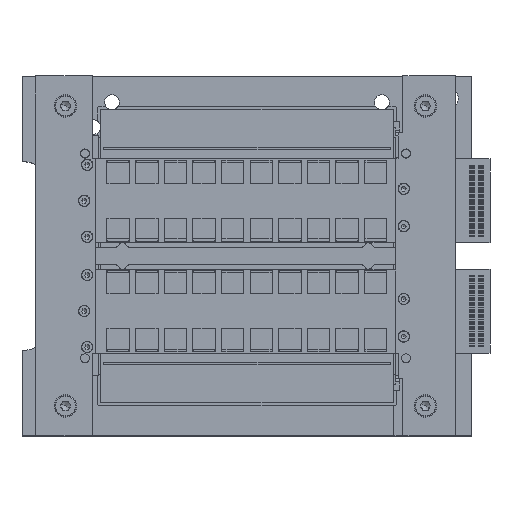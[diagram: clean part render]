
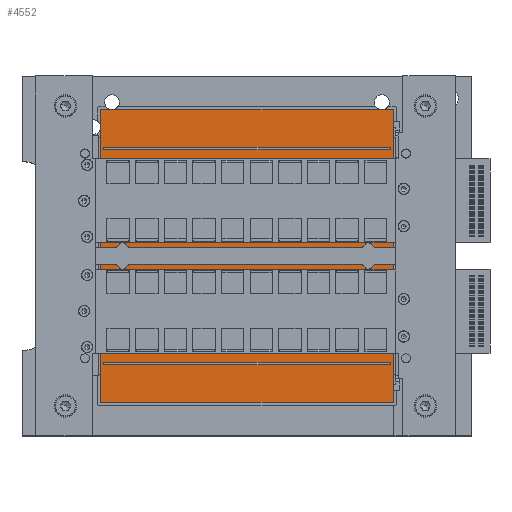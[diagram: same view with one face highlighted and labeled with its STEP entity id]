
A CAD part, top view. The second image highlights one B-rep face of the part: STEP entity #4552.
In plain terms, the highlighted planar face has unit normal (0, 0, 1).
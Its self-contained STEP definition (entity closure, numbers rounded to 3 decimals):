
#3999=CARTESIAN_POINT('Vertex',(-47.8,-35.48,0.32)) ;
#4004=CARTESIAN_POINT('Line Origine',(-47.8,-35.88,0.32)) ;
#4008=CARTESIAN_POINT('Vertex',(-47.8,-36.28,0.32)) ;
#4039=CARTESIAN_POINT('Vertex',(47.8,-35.48,0.32)) ;
#4044=CARTESIAN_POINT('Line Origine',(0.,-35.48,0.32)) ;
#4066=CARTESIAN_POINT('Line Origine',(0.,-36.28,0.32)) ;
#4070=CARTESIAN_POINT('Vertex',(47.8,-36.28,0.32)) ;
#4114=CARTESIAN_POINT('Line Origine',(47.8,-35.88,0.32)) ;
#4130=CARTESIAN_POINT('Vertex',(-47.8,-0.48,0.32)) ;
#4135=CARTESIAN_POINT('Line Origine',(-47.8,-0.88,0.32)) ;
#4139=CARTESIAN_POINT('Vertex',(-47.8,-1.28,0.32)) ;
#4170=CARTESIAN_POINT('Vertex',(47.8,-0.48,0.32)) ;
#4175=CARTESIAN_POINT('Line Origine',(0.,-0.48,0.32)) ;
#4197=CARTESIAN_POINT('Line Origine',(0.,-1.28,0.32)) ;
#4201=CARTESIAN_POINT('Vertex',(47.8,-1.28,0.32)) ;
#4235=CARTESIAN_POINT('Line Origine',(47.8,-0.88,0.32)) ;
#4251=CARTESIAN_POINT('Vertex',(-47.8,1.28,0.32)) ;
#4256=CARTESIAN_POINT('Line Origine',(-47.8,0.88,0.32)) ;
#4260=CARTESIAN_POINT('Vertex',(-47.8,0.48,0.32)) ;
#4291=CARTESIAN_POINT('Vertex',(47.8,1.28,0.32)) ;
#4296=CARTESIAN_POINT('Line Origine',(0.,1.28,0.32)) ;
#4318=CARTESIAN_POINT('Line Origine',(0.,0.48,0.32)) ;
#4322=CARTESIAN_POINT('Vertex',(47.8,0.48,0.32)) ;
#4356=CARTESIAN_POINT('Line Origine',(47.8,0.88,0.32)) ;
#4372=CARTESIAN_POINT('Vertex',(-47.8,36.28,0.32)) ;
#4377=CARTESIAN_POINT('Line Origine',(-47.8,35.88,0.32)) ;
#4381=CARTESIAN_POINT('Vertex',(-47.8,35.48,0.32)) ;
#4412=CARTESIAN_POINT('Vertex',(47.8,36.28,0.32)) ;
#4417=CARTESIAN_POINT('Line Origine',(0.,36.28,0.32)) ;
#4439=CARTESIAN_POINT('Line Origine',(0.,35.48,0.32)) ;
#4443=CARTESIAN_POINT('Vertex',(47.8,35.48,0.32)) ;
#4477=CARTESIAN_POINT('Line Origine',(47.8,35.88,0.32)) ;
#4489=CARTESIAN_POINT('Axis2P3D Location',(0.,0.,0.32)) ;
#4494=CARTESIAN_POINT('Line Origine',(-48.77,0.,0.32)) ;
#4498=CARTESIAN_POINT('Vertex',(-48.77,48.77,0.32)) ;
#4500=CARTESIAN_POINT('Vertex',(-48.77,-48.77,0.32)) ;
#4503=CARTESIAN_POINT('Line Origine',(0.,-48.77,0.32)) ;
#4507=CARTESIAN_POINT('Vertex',(48.77,-48.77,0.32)) ;
#4510=CARTESIAN_POINT('Line Origine',(48.77,0.,0.32)) ;
#4514=CARTESIAN_POINT('Vertex',(48.77,48.77,0.32)) ;
#4517=CARTESIAN_POINT('Line Origine',(0.,48.77,0.32)) ;
#4005=DIRECTION('Vector Direction',(0.,-1.,0.)) ;
#4045=DIRECTION('Vector Direction',(1.,0.,0.)) ;
#4067=DIRECTION('Vector Direction',(-1.,0.,0.)) ;
#4115=DIRECTION('Vector Direction',(0.,1.,0.)) ;
#4136=DIRECTION('Vector Direction',(0.,-1.,0.)) ;
#4176=DIRECTION('Vector Direction',(1.,0.,0.)) ;
#4198=DIRECTION('Vector Direction',(-1.,0.,0.)) ;
#4236=DIRECTION('Vector Direction',(0.,1.,0.)) ;
#4257=DIRECTION('Vector Direction',(0.,-1.,0.)) ;
#4297=DIRECTION('Vector Direction',(1.,0.,0.)) ;
#4319=DIRECTION('Vector Direction',(-1.,0.,0.)) ;
#4357=DIRECTION('Vector Direction',(0.,1.,0.)) ;
#4378=DIRECTION('Vector Direction',(0.,-1.,0.)) ;
#4418=DIRECTION('Vector Direction',(1.,0.,0.)) ;
#4440=DIRECTION('Vector Direction',(-1.,0.,0.)) ;
#4478=DIRECTION('Vector Direction',(0.,1.,0.)) ;
#4490=DIRECTION('Axis2P3D Direction',(0.,0.,1.)) ;
#4491=DIRECTION('Axis2P3D XDirection',(1.,0.,0.)) ;
#4495=DIRECTION('Vector Direction',(0.,-1.,0.)) ;
#4504=DIRECTION('Vector Direction',(-1.,0.,0.)) ;
#4511=DIRECTION('Vector Direction',(0.,1.,0.)) ;
#4518=DIRECTION('Vector Direction',(1.,0.,0.)) ;
#4492=AXIS2_PLACEMENT_3D('Plane Axis2P3D',#4489,#4490,#4491) ;
#4523=ORIENTED_EDGE('',*,*,#4502,.T.) ;
#4524=ORIENTED_EDGE('',*,*,#4509,.T.) ;
#4525=ORIENTED_EDGE('',*,*,#4516,.T.) ;
#4526=ORIENTED_EDGE('',*,*,#4521,.T.) ;
#4529=ORIENTED_EDGE('',*,*,#4118,.F.) ;
#4530=ORIENTED_EDGE('',*,*,#4072,.F.) ;
#4531=ORIENTED_EDGE('',*,*,#4010,.F.) ;
#4532=ORIENTED_EDGE('',*,*,#4048,.F.) ;
#4535=ORIENTED_EDGE('',*,*,#4239,.F.) ;
#4536=ORIENTED_EDGE('',*,*,#4203,.F.) ;
#4537=ORIENTED_EDGE('',*,*,#4141,.F.) ;
#4538=ORIENTED_EDGE('',*,*,#4179,.F.) ;
#4541=ORIENTED_EDGE('',*,*,#4360,.F.) ;
#4542=ORIENTED_EDGE('',*,*,#4324,.F.) ;
#4543=ORIENTED_EDGE('',*,*,#4262,.F.) ;
#4544=ORIENTED_EDGE('',*,*,#4300,.F.) ;
#4547=ORIENTED_EDGE('',*,*,#4481,.F.) ;
#4548=ORIENTED_EDGE('',*,*,#4445,.F.) ;
#4549=ORIENTED_EDGE('',*,*,#4383,.F.) ;
#4550=ORIENTED_EDGE('',*,*,#4421,.F.) ;
#4533=FACE_BOUND('',#4528,.T.) ;
#4539=FACE_BOUND('',#4534,.T.) ;
#4545=FACE_BOUND('',#4540,.T.) ;
#4551=FACE_BOUND('',#4546,.T.) ;
#4006=VECTOR('Line Direction',#4005,1.) ;
#4046=VECTOR('Line Direction',#4045,1.) ;
#4068=VECTOR('Line Direction',#4067,1.) ;
#4116=VECTOR('Line Direction',#4115,1.) ;
#4137=VECTOR('Line Direction',#4136,1.) ;
#4177=VECTOR('Line Direction',#4176,1.) ;
#4199=VECTOR('Line Direction',#4198,1.) ;
#4237=VECTOR('Line Direction',#4236,1.) ;
#4258=VECTOR('Line Direction',#4257,1.) ;
#4298=VECTOR('Line Direction',#4297,1.) ;
#4320=VECTOR('Line Direction',#4319,1.) ;
#4358=VECTOR('Line Direction',#4357,1.) ;
#4379=VECTOR('Line Direction',#4378,1.) ;
#4419=VECTOR('Line Direction',#4418,1.) ;
#4441=VECTOR('Line Direction',#4440,1.) ;
#4479=VECTOR('Line Direction',#4478,1.) ;
#4496=VECTOR('Line Direction',#4495,1.) ;
#4505=VECTOR('Line Direction',#4504,1.) ;
#4512=VECTOR('Line Direction',#4511,1.) ;
#4519=VECTOR('Line Direction',#4518,1.) ;
#4552=ADVANCED_FACE('Corps principal',(#4527,#4533,#4539,#4545,#4551),#4493,.T.) ;
#4010=EDGE_CURVE('',#4000,#4009,#4007,.T.) ;
#4048=EDGE_CURVE('',#4040,#4000,#4047,.F.) ;
#4072=EDGE_CURVE('',#4009,#4071,#4069,.F.) ;
#4118=EDGE_CURVE('',#4071,#4040,#4117,.T.) ;
#4141=EDGE_CURVE('',#4131,#4140,#4138,.T.) ;
#4179=EDGE_CURVE('',#4171,#4131,#4178,.F.) ;
#4203=EDGE_CURVE('',#4140,#4202,#4200,.F.) ;
#4239=EDGE_CURVE('',#4202,#4171,#4238,.T.) ;
#4262=EDGE_CURVE('',#4252,#4261,#4259,.T.) ;
#4300=EDGE_CURVE('',#4292,#4252,#4299,.F.) ;
#4324=EDGE_CURVE('',#4261,#4323,#4321,.F.) ;
#4360=EDGE_CURVE('',#4323,#4292,#4359,.T.) ;
#4383=EDGE_CURVE('',#4373,#4382,#4380,.T.) ;
#4421=EDGE_CURVE('',#4413,#4373,#4420,.F.) ;
#4445=EDGE_CURVE('',#4382,#4444,#4442,.F.) ;
#4481=EDGE_CURVE('',#4444,#4413,#4480,.T.) ;
#4502=EDGE_CURVE('',#4499,#4501,#4497,.T.) ;
#4509=EDGE_CURVE('',#4501,#4508,#4506,.F.) ;
#4516=EDGE_CURVE('',#4508,#4515,#4513,.T.) ;
#4521=EDGE_CURVE('',#4515,#4499,#4520,.F.) ;
#4522=EDGE_LOOP('',(#4523,#4524,#4525,#4526)) ;
#4528=EDGE_LOOP('',(#4529,#4530,#4531,#4532)) ;
#4534=EDGE_LOOP('',(#4535,#4536,#4537,#4538)) ;
#4540=EDGE_LOOP('',(#4541,#4542,#4543,#4544)) ;
#4546=EDGE_LOOP('',(#4547,#4548,#4549,#4550)) ;
#4527=FACE_OUTER_BOUND('',#4522,.T.) ;
#4007=LINE('Line',#4004,#4006) ;
#4047=LINE('Line',#4044,#4046) ;
#4069=LINE('Line',#4066,#4068) ;
#4117=LINE('Line',#4114,#4116) ;
#4138=LINE('Line',#4135,#4137) ;
#4178=LINE('Line',#4175,#4177) ;
#4200=LINE('Line',#4197,#4199) ;
#4238=LINE('Line',#4235,#4237) ;
#4259=LINE('Line',#4256,#4258) ;
#4299=LINE('Line',#4296,#4298) ;
#4321=LINE('Line',#4318,#4320) ;
#4359=LINE('Line',#4356,#4358) ;
#4380=LINE('Line',#4377,#4379) ;
#4420=LINE('Line',#4417,#4419) ;
#4442=LINE('Line',#4439,#4441) ;
#4480=LINE('Line',#4477,#4479) ;
#4497=LINE('Line',#4494,#4496) ;
#4506=LINE('Line',#4503,#4505) ;
#4513=LINE('Line',#4510,#4512) ;
#4520=LINE('Line',#4517,#4519) ;
#4493=PLANE('Plane',#4492) ;
#4000=VERTEX_POINT('',#3999) ;
#4009=VERTEX_POINT('',#4008) ;
#4040=VERTEX_POINT('',#4039) ;
#4071=VERTEX_POINT('',#4070) ;
#4131=VERTEX_POINT('',#4130) ;
#4140=VERTEX_POINT('',#4139) ;
#4171=VERTEX_POINT('',#4170) ;
#4202=VERTEX_POINT('',#4201) ;
#4252=VERTEX_POINT('',#4251) ;
#4261=VERTEX_POINT('',#4260) ;
#4292=VERTEX_POINT('',#4291) ;
#4323=VERTEX_POINT('',#4322) ;
#4373=VERTEX_POINT('',#4372) ;
#4382=VERTEX_POINT('',#4381) ;
#4413=VERTEX_POINT('',#4412) ;
#4444=VERTEX_POINT('',#4443) ;
#4499=VERTEX_POINT('',#4498) ;
#4501=VERTEX_POINT('',#4500) ;
#4508=VERTEX_POINT('',#4507) ;
#4515=VERTEX_POINT('',#4514) ;
